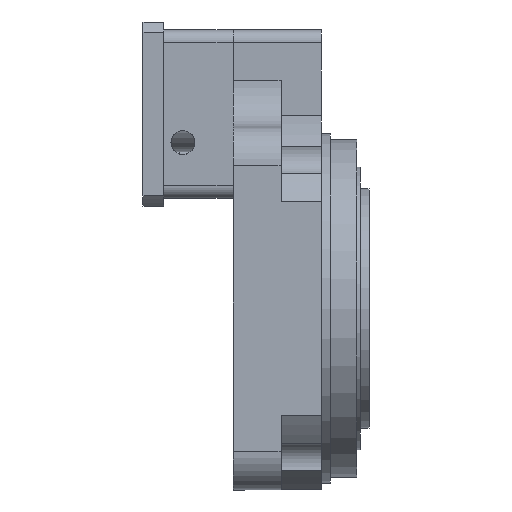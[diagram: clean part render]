
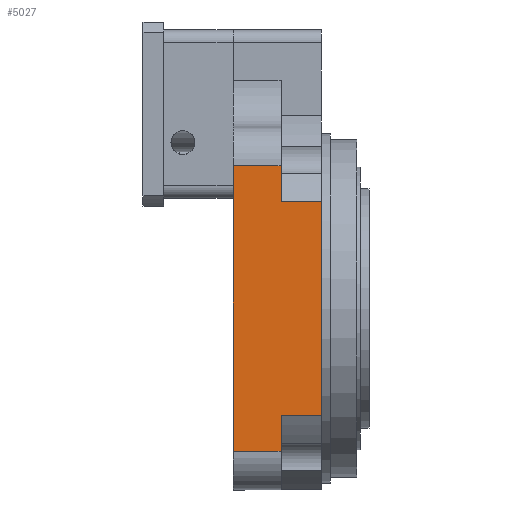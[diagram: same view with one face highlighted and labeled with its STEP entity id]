
A CAD part, front view. The second image highlights one B-rep face of the part: STEP entity #5027.
In plain terms, the highlighted planar face has unit normal (0, -1, 0).
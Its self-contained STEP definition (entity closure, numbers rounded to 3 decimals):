
#84 = LINE ( 'NONE', #56819, #66128 ) ;
#1929 = CARTESIAN_POINT ( 'NONE',  ( -37., -140., -40. ) ) ;
#2895 = VERTEX_POINT ( 'NONE', #72023 ) ;
#5027 = ADVANCED_FACE ( 'NONE', ( #75387 ), #25236, .F. ) ;
#5694 = DIRECTION ( 'NONE',  ( 1., 0., 0. ) ) ;
#5756 = DIRECTION ( 'NONE',  ( -1., 0., 0. ) ) ;
#5829 = DIRECTION ( 'NONE',  ( 0., 0., -1. ) ) ;
#7355 = ORIENTED_EDGE ( 'NONE', *, *, #31516, .F. ) ;
#10116 = CARTESIAN_POINT ( 'NONE',  ( 0., -140., -40. ) ) ;
#10633 = AXIS2_PLACEMENT_3D ( 'NONE', #18782, #11989, #31649 ) ;
#11989 = DIRECTION ( 'NONE',  ( 0., 1., 0. ) ) ;
#13332 = LINE ( 'NONE', #31476, #41420 ) ;
#13400 = EDGE_CURVE ( 'NONE', #40281, #17943, #84, .T. ) ;
#14448 = CARTESIAN_POINT ( 'NONE',  ( 0., -140., -232.5 ) ) ;
#14870 = CARTESIAN_POINT ( 'NONE',  ( 38., -140., -232.5 ) ) ;
#15315 = VECTOR ( 'NONE', #72094, 1000. ) ;
#16134 = ORIENTED_EDGE ( 'NONE', *, *, #16573, .F. ) ;
#16312 = EDGE_CURVE ( 'NONE', #52271, #59916, #13332, .T. ) ;
#16573 = EDGE_CURVE ( 'NONE', #59916, #2895, #34359, .T. ) ;
#17335 = VECTOR ( 'NONE', #59653, 1000. ) ;
#17943 = VERTEX_POINT ( 'NONE', #18910 ) ;
#18782 = CARTESIAN_POINT ( 'NONE',  ( 38., -140., -232.5 ) ) ;
#18910 = CARTESIAN_POINT ( 'NONE',  ( -37., -140., -260. ) ) ;
#19761 = CARTESIAN_POINT ( 'NONE',  ( 31., -140., -67.5 ) ) ;
#21137 = ORIENTED_EDGE ( 'NONE', *, *, #48005, .F. ) ;
#25236 = PLANE ( 'NONE',  #10633 ) ;
#26366 = VECTOR ( 'NONE', #5829, 1000. ) ;
#26759 = VECTOR ( 'NONE', #5694, 1000. ) ;
#30469 = ORIENTED_EDGE ( 'NONE', *, *, #70584, .F. ) ;
#30916 = CARTESIAN_POINT ( 'NONE',  ( 38., -140., -67.5 ) ) ;
#31476 = CARTESIAN_POINT ( 'NONE',  ( 31., -140., -232.5 ) ) ;
#31516 = EDGE_CURVE ( 'NONE', #2895, #33714, #60339, .T. ) ;
#31649 = DIRECTION ( 'NONE',  ( 0., 0., 1. ) ) ;
#33714 = VERTEX_POINT ( 'NONE', #57933 ) ;
#34359 = LINE ( 'NONE', #14870, #17335 ) ;
#37156 = CARTESIAN_POINT ( 'NONE',  ( 31., -140., -232.5 ) ) ;
#37188 = EDGE_LOOP ( 'NONE', ( #51124, #30469, #76900, #21137, #7355, #16134, #62277, #62074 ) ) ;
#37664 = CARTESIAN_POINT ( 'NONE',  ( 38., -140., -40. ) ) ;
#37785 = DIRECTION ( 'NONE',  ( 0., 0., -1. ) ) ;
#37908 = DIRECTION ( 'NONE',  ( 0., 0., -1. ) ) ;
#40281 = VERTEX_POINT ( 'NONE', #1929 ) ;
#41137 = CARTESIAN_POINT ( 'NONE',  ( 0., -140., -67.5 ) ) ;
#41420 = VECTOR ( 'NONE', #37908, 1000. ) ;
#41994 = LINE ( 'NONE', #30916, #76007 ) ;
#47758 = LINE ( 'NONE', #37664, #26759 ) ;
#48005 = EDGE_CURVE ( 'NONE', #33714, #17943, #57182, .T. ) ;
#51124 = ORIENTED_EDGE ( 'NONE', *, *, #71897, .F. ) ;
#52271 = VERTEX_POINT ( 'NONE', #19761 ) ;
#53884 = VERTEX_POINT ( 'NONE', #41137 ) ;
#55126 = VECTOR ( 'NONE', #5756, 1000. ) ;
#56819 = CARTESIAN_POINT ( 'NONE',  ( -37., -140., -260. ) ) ;
#57182 = LINE ( 'NONE', #82421, #55126 ) ;
#57933 = CARTESIAN_POINT ( 'NONE',  ( 0., -140., -260. ) ) ;
#59653 = DIRECTION ( 'NONE',  ( -1., 0., 0. ) ) ;
#59916 = VERTEX_POINT ( 'NONE', #37156 ) ;
#60339 = LINE ( 'NONE', #82766, #26366 ) ;
#60493 = EDGE_CURVE ( 'NONE', #53884, #52271, #41994, .T. ) ;
#62074 = ORIENTED_EDGE ( 'NONE', *, *, #60493, .F. ) ;
#62277 = ORIENTED_EDGE ( 'NONE', *, *, #16312, .F. ) ;
#66128 = VECTOR ( 'NONE', #37785, 1000. ) ;
#66431 = LINE ( 'NONE', #14448, #15315 ) ;
#70584 = EDGE_CURVE ( 'NONE', #40281, #81125, #47758, .T. ) ;
#71897 = EDGE_CURVE ( 'NONE', #81125, #53884, #66431, .T. ) ;
#72023 = CARTESIAN_POINT ( 'NONE',  ( 0., -140., -232.5 ) ) ;
#72094 = DIRECTION ( 'NONE',  ( 0., 0., -1. ) ) ;
#75387 = FACE_OUTER_BOUND ( 'NONE', #37188, .T. ) ;
#75669 = DIRECTION ( 'NONE',  ( 1., 0., 0. ) ) ;
#76007 = VECTOR ( 'NONE', #75669, 1000. ) ;
#76900 = ORIENTED_EDGE ( 'NONE', *, *, #13400, .T. ) ;
#81125 = VERTEX_POINT ( 'NONE', #10116 ) ;
#82421 = CARTESIAN_POINT ( 'NONE',  ( -37., -140., -260. ) ) ;
#82766 = CARTESIAN_POINT ( 'NONE',  ( 0., -140., -232.5 ) ) ;
